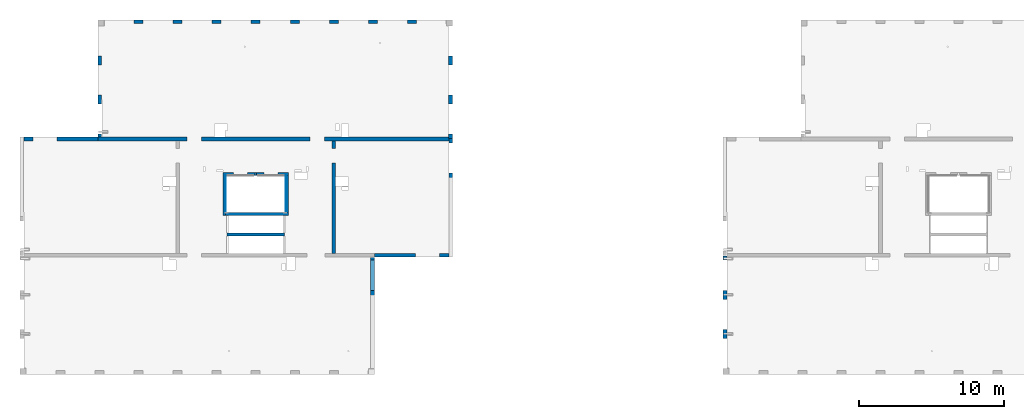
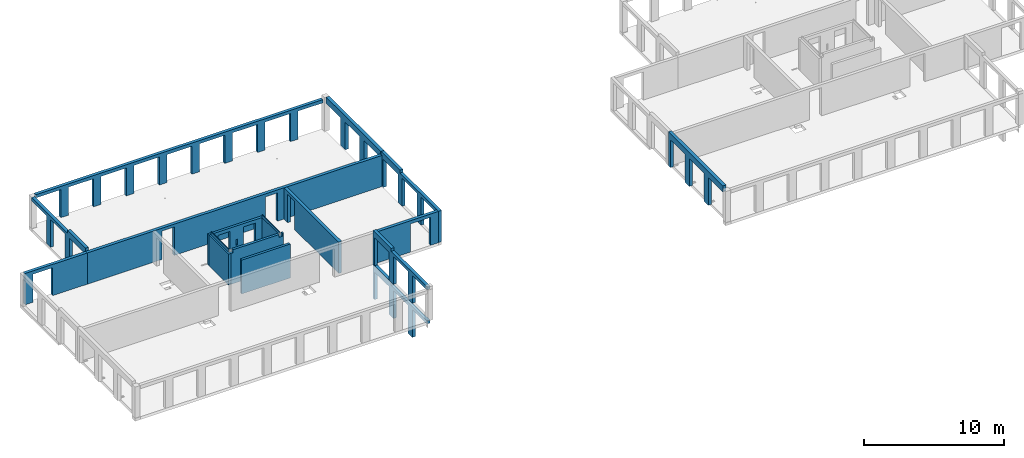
# One storey, part 3 of 9: 18 walls, 41 openings.
"""IFC2X3 building model written with IfcOpenShell, lengths in millimetres."""

from ifc_helpers import new_model, entity, si_unit, converted_unit, derived_unit, direction, frame, frame_2d, origin, origin_2d_with_axis, place, context, subcontext, project, spatial, rectangle, extrude, material, layer, layer_set, layer_usage, type_object, element, save


model = new_model("IFC2X3")

# Units and contexts
model_context = context("Model", 3, precision=0.01, world=origin(), true_north=direction((6.12303176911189e-17, 1.0)))
body_context = subcontext(model_context, "Body", "Model", "MODEL_VIEW")
ifc_project = project(units=[si_unit("LENGTHUNIT", "METRE", prefix="MILLI"), si_unit("AREAUNIT", "SQUARE_METRE"), si_unit("VOLUMEUNIT", "CUBIC_METRE"), converted_unit("PLANEANGLEUNIT", "DEGREE", entity("IfcRatioMeasure", 0.0174532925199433), si_unit("PLANEANGLEUNIT", "RADIAN"), dimensions=[0, 0, 0, 0, 0, 0, 0]), si_unit("MASSUNIT", "GRAM", prefix="KILO"), derived_unit("MASSDENSITYUNIT", [(si_unit("MASSUNIT", "GRAM", prefix="KILO"), 1), (si_unit("LENGTHUNIT", "METRE"), -3)]), si_unit("TIMEUNIT", "SECOND"), si_unit("FREQUENCYUNIT", "HERTZ"), si_unit("THERMODYNAMICTEMPERATUREUNIT", "DEGREE_CELSIUS"), derived_unit("THERMALTRANSMITTANCEUNIT", [(si_unit("MASSUNIT", "GRAM", prefix="KILO"), 1), (si_unit("THERMODYNAMICTEMPERATUREUNIT", "KELVIN"), -1), (si_unit("TIMEUNIT", "SECOND"), -3)]), derived_unit("VOLUMETRICFLOWRATEUNIT", [(si_unit("LENGTHUNIT", "METRE"), 3), (si_unit("TIMEUNIT", "SECOND"), -1)]), si_unit("ELECTRICCURRENTUNIT", "AMPERE"), si_unit("ELECTRICVOLTAGEUNIT", "VOLT"), si_unit("POWERUNIT", "WATT"), si_unit("FORCEUNIT", "NEWTON", prefix="KILO"), si_unit("ILLUMINANCEUNIT", "LUX"), si_unit("LUMINOUSFLUXUNIT", "LUMEN"), si_unit("LUMINOUSINTENSITYUNIT", "CANDELA"), derived_unit("USERDEFINED", [(si_unit("MASSUNIT", "GRAM", prefix="KILO"), -1), (si_unit("LENGTHUNIT", "METRE"), -2), (si_unit("TIMEUNIT", "SECOND"), 3), (si_unit("LUMINOUSFLUXUNIT", "LUMEN"), 1)]), derived_unit("LINEARVELOCITYUNIT", [(si_unit("LENGTHUNIT", "METRE"), 1), (si_unit("TIMEUNIT", "SECOND"), -1)]), si_unit("PRESSUREUNIT", "PASCAL"), derived_unit("USERDEFINED", [(si_unit("LENGTHUNIT", "METRE"), -2), (si_unit("MASSUNIT", "GRAM", prefix="KILO"), 1), (si_unit("TIMEUNIT", "SECOND"), -2)])], contexts=[model_context])

# Site, building, storey
site_placement = place(None, origin())
site = spatial("IfcSite", under=ifc_project, at=site_placement, Name="Default", CompositionType="ELEMENT")
building_placement = place(site_placement, origin())
building = spatial("IfcBuilding", under=site, at=building_placement, Name="niet gebruiken", CompositionType="ELEMENT")
storey_placement = place(building_placement, frame((0.0, 0.0, 33390.0)))
storey = spatial("IfcBuildingStorey", under=building, at=storey_placement, Name="11 elfde verdieping", CompositionType="ELEMENT", Elevation=33390.0)

# Wall, opening
ifc_material_1 = material(Name="NLRS_f2_beton ihwg")
ifc_layer_1 = layer(ifc_material_1, 250.0)
ifc_layer_set_1 = layer_set([ifc_layer_1], Name="Basic Wall:NLRS_22.21_WA_beton ihwg d=250_gen")
ifc_layer_usage_1 = layer_usage(ifc_layer_set_1, "AXIS2", "NEGATIVE", 125.0)
wall_type_1 = type_object("IfcWallType", Name="Basic Wall:NLRS_22.21_WA_beton ihwg d=250_gen", PredefinedType="STANDARD", material=ifc_layer_set_1)
wall_1_placement = place(storey_placement, frame((27170.0, 45031.0, -90.0)))
wall_1 = element("IfcWallStandardCase", 1, at=wall_1_placement, inside=storey, type_object=wall_type_1, material=ifc_layer_usage_1, Name="Basic Wall:NLRS_22.21_WA_beton ihwg d=250_gen", ObjectType="Basic Wall:NLRS_22.21_WA_beton ihwg d=250_gen", context=body_context, shape_type="SweptSolid", body=[
    extrude(rectangle(XDim=5130.0, YDim=249.999999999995, at=frame_2d((2565.0, 0.0), x_axis=(-1.0, 0.0))), origin(), (0.0, 0.0, 1.0), 2719.99999999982),
])
opening_1_placement = place(wall_1_placement, origin())
element("IfcOpeningElement", 2, at=opening_1_placement, cuts=wall_1, Name="Basic Wall:NLRS_22.21_WA_beton ihwg d=250_gen", ObjectType="Opening", context=body_context, shape_type="SweptSolid", body=[
    extrude(rectangle(XDim=2440.0, YDim=1640.0, at=origin_2d_with_axis()), frame((1460.0, -1649.0, 1220.0), z_axis=(0.0, 1.0, 0.0), x_axis=(0.0, 0.0, 1.0)), (0.0, 0.0, 1.0), 3048.0),
])

ifc_layer_usage_2 = layer_usage(ifc_layer_set_1, "AXIS2", "NEGATIVE", 125.0)
wall_2_placement = place(storey_placement, frame((48600.0, 44906.0, -90.0), z_axis=(0.0, 0.0, 1.0), x_axis=(0.0, -1.0, 0.0)))
wall_2 = element("IfcWallStandardCase", 3, at=wall_2_placement, inside=storey, type_object=wall_type_1, material=ifc_layer_usage_2, Name="Basic Wall:NLRS_22.21_WA_beton ihwg d=250_gen", ObjectType="Basic Wall:NLRS_22.21_WA_beton ihwg d=250_gen", context=body_context, shape_type="SweptSolid", body=[
    extrude(rectangle(XDim=7799.99999999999, YDim=249.999999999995, at=frame_2d((3900.0, 0.0), x_axis=(-1.0, 0.0))), origin(), (0.0, 0.0, 1.0), 2719.99999999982),
])
opening_2_placement = place(wall_2_placement, origin())
element("IfcOpeningElement", 4, at=opening_2_placement, cuts=wall_2, Name="Basic Wall:NLRS_22.21_WA_beton ihwg d=250_gen", ObjectType="Opening", context=body_context, shape_type="SweptSolid", body=[
    extrude(rectangle(XDim=2470.0, YDim=1006.0, at=frame_2d((4.43378667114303e-12, 0.0), x_axis=(1.0, 0.0))), frame((1027.0, -1649.0, 1235.0), z_axis=(0.0, 1.0, 0.0), x_axis=(0.0, 0.0, 1.0)), (0.0, 0.0, 1.0), 3048.0),
])

# Wall, openings
ifc_layer_usage_3 = layer_usage(ifc_layer_set_1, "AXIS2", "NEGATIVE", 125.0)
wall_3_placement = place(storey_placement, frame((32300.0, 45031.0, -90.0)))
wall_3 = element("IfcWallStandardCase", 5, at=wall_3_placement, inside=storey, type_object=wall_type_1, material=ifc_layer_usage_3, Name="Basic Wall:NLRS_22.21_WA_beton ihwg d=250_gen", ObjectType="Basic Wall:NLRS_22.21_WA_beton ihwg d=250_gen", context=body_context, shape_type="SweptSolid", body=[
    extrude(rectangle(XDim=24250.0, YDim=249.999999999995, at=frame_2d((12125.0, 0.0), x_axis=(-1.0, 0.0))), origin(), (0.0, 0.0, 1.0), 2719.99999999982),
])
opening_3_placement = place(wall_3_placement, origin())
element("IfcOpeningElement", 6, at=opening_3_placement, cuts=wall_3, Name="Basic Wall:NLRS_22.21_WA_beton ihwg d=250_gen", ObjectType="Opening", context=body_context, shape_type="SweptSolid", body=[
    extrude(rectangle(XDim=2470.0, YDim=1006.0, at=frame_2d((4.43378667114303e-12, 0.0), x_axis=(1.0, 0.0))), frame((15148.0, -1649.0, 1235.0), z_axis=(0.0, 1.0, 0.0), x_axis=(0.0, 0.0, 1.0)), (0.0, 0.0, 1.0), 3048.0),
])
opening_4_placement = place(wall_3_placement, origin())
element("IfcOpeningElement", 7, at=opening_4_placement, cuts=wall_3, Name="Basic Wall:NLRS_22.21_WA_beton ihwg d=250_gen", ObjectType="Opening", context=body_context, shape_type="SweptSolid", body=[
    extrude(rectangle(XDim=2470.0, YDim=1006.0, at=frame_2d((0.0, 2.1600499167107e-12), x_axis=(1.0, 0.0))), frame((6652.0, -1649.0, 1235.0), z_axis=(0.0, 1.0, 0.0), x_axis=(0.0, 0.0, 1.0)), (0.0, 0.0, 1.0), 3048.0),
])

# Wall, opening
ifc_layer_usage_4 = layer_usage(ifc_layer_set_1, "AXIS2", "NEGATIVE", 125.0)
wall_4_placement = place(storey_placement, frame((51400.0, 36981.0, -90.0)))
wall_4 = element("IfcWallStandardCase", 8, at=wall_4_placement, inside=storey, type_object=wall_type_1, material=ifc_layer_usage_4, Name="Basic Wall:NLRS_22.21_WA_beton ihwg d=250_gen", ObjectType="Basic Wall:NLRS_22.21_WA_beton ihwg d=250_gen", context=body_context, shape_type="SweptSolid", body=[
    extrude(rectangle(XDim=5150.0, YDim=250.000000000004, at=frame_2d((2575.0, 0.0), x_axis=(-1.0, 0.0))), origin(), (0.0, 0.0, 1.0), 2719.99999999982),
])
opening_5_placement = place(wall_4_placement, origin())
element("IfcOpeningElement", 9, at=opening_5_placement, cuts=wall_4, Name="Basic Wall:NLRS_22.21_WA_beton ihwg d=250_gen", ObjectType="Opening", context=body_context, shape_type="SweptSolid", body=[
    extrude(rectangle(XDim=2440.0, YDim=1640.0, at=frame_2d((-4.37694325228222e-12, 0.0), x_axis=(0.0, 1.0))), frame((3670.0, -1399.0, 1220.0), z_axis=(0.0, 1.0, 0.0), x_axis=(-1.0, 0.0, 0.0)), (0.0, 0.0, 1.0), 3048.0),
])

# Wall, openings
ifc_material_2 = material(Name="NLRS_f2_beton prefab")
ifc_layer_2 = layer(ifc_material_2, 250.0)
ifc_layer_set_2 = layer_set([ifc_layer_2], Name="Basic Wall:NLRS_21.21_WA_beton prefab d=250_gen")
ifc_layer_usage_5 = layer_usage(ifc_layer_set_2, "AXIS2", "NEGATIVE", 125.0)
wall_type_2 = type_object("IfcWallType", Name="Basic Wall:NLRS_21.21_WA_beton prefab d=250_gen", PredefinedType="STANDARD", material=ifc_layer_set_2)
wall_5_placement = place(storey_placement, frame((51275.0, 29166.0, -3040.0), z_axis=(0.0, 0.0, 1.0), x_axis=(0.0, 1.0, 0.0)))
wall_5 = element("IfcWallStandardCase", 10, at=wall_5_placement, inside=storey, type_object=wall_type_2, material=ifc_layer_usage_5, Name="Basic Wall:NLRS_21.21_WA_beton prefab d=250_gen", ObjectType="Basic Wall:NLRS_21.21_WA_beton prefab d=250_gen", context=body_context, shape_type="SweptSolid", body=[
    extrude(rectangle(XDim=7669.99999999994, YDim=249.999999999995, at=frame_2d((3834.99999999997, 0.0), x_axis=(-1.0, 0.0))), origin(), (0.0, 0.0, 1.0), 2949.99999999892),
])
opening_6_placement = place(wall_5_placement, origin())
element("IfcOpeningElement", 11, at=opening_6_placement, cuts=wall_5, Name="Basic Wall:NLRS_21.21_WA_beton prefab d=250_gen", ObjectType="Opening", context=body_context, shape_type="SweptSolid", body=[
    extrude(rectangle(XDim=2420.0, YDim=2080.0, at=frame_2d((-2.1600499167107e-12, 2.1600499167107e-12), x_axis=(0.0, 1.0))), frame((1040.0, -1399.0, 1210.0), z_axis=(0.0, 1.0, 0.0), x_axis=(-1.0, 0.0, 0.0)), (0.0, 0.0, 1.0), 3048.0),
])
opening_7_placement = place(wall_5_placement, origin())
element("IfcOpeningElement", 12, at=opening_7_placement, cuts=wall_5, Name="Basic Wall:NLRS_21.21_WA_beton prefab d=250_gen", ObjectType="Opening", context=body_context, shape_type="SweptSolid", body=[
    extrude(rectangle(XDim=2420.0, YDim=2080.0, at=frame_2d((2.1600499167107e-12, -2.1600499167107e-12), x_axis=(0.0, 1.0))), frame((3740.0, -1399.0, 1210.0), z_axis=(0.0, 1.0, 0.0), x_axis=(-1.0, 0.0, 0.0)), (0.0, 0.0, 1.0), 3048.0),
])
opening_8_placement = place(wall_5_placement, origin())
element("IfcOpeningElement", 13, at=opening_8_placement, cuts=wall_5, Name="Basic Wall:NLRS_21.21_WA_beton prefab d=250_gen", ObjectType="Opening", context=body_context, shape_type="SweptSolid", body=[
    extrude(rectangle(XDim=2420.0, YDim=2080.0, at=frame_2d((2.1600499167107e-12, -2.1600499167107e-12), x_axis=(0.0, 1.0))), frame((6440.0, -1399.0, 1210.0), z_axis=(0.0, 1.0, 0.0), x_axis=(-1.0, 0.0, 0.0)), (0.0, 0.0, 1.0), 3048.0),
])
opening_9_placement = place(wall_5_placement, origin())
element("IfcOpeningElement", 14, at=opening_9_placement, cuts=wall_5, Name="Basic Wall:NLRS_21.21_WA_beton prefab d=250_gen", ObjectType="Opening", context=body_context, shape_type="SweptSolid", body=[
    extrude(rectangle(XDim=249.999999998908, YDim=5090.00000000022, at=frame_2d((0.0, -2.16715534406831e-12), x_axis=(0.0, 1.0))), frame((2545.0, 125.0, 2825.0), z_axis=(0.0, -1.0, 0.0), x_axis=(-1.0, 0.0, 0.0)), (0.0, 0.0, 1.0), 250.0),
])

ifc_layer_usage_6 = layer_usage(ifc_layer_set_2, "AXIS2", "NEGATIVE", 125.0)
wall_6_placement = place(storey_placement, frame((32425.0, 52846.0, -70.0), z_axis=(0.0, 0.0, 1.0), x_axis=(0.0, -1.0, 0.0)))
wall_6 = element("IfcWallStandardCase", 15, at=wall_6_placement, inside=storey, type_object=wall_type_2, material=ifc_layer_usage_6, Name="Basic Wall:NLRS_21.21_WA_beton prefab d=250_gen", ObjectType="Basic Wall:NLRS_21.21_WA_beton prefab d=250_gen", context=body_context, shape_type="SweptSolid", body=[
    extrude(rectangle(XDim=7670.00000000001, YDim=250.000000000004, at=frame_2d((3835.0, 0.0), x_axis=(-1.0, 0.0))), origin(), (0.0, 0.0, 1.0), 2949.99999999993),
])
opening_10_placement = place(wall_6_placement, origin())
element("IfcOpeningElement", 16, at=opening_10_placement, cuts=wall_6, Name="Basic Wall:NLRS_21.21_WA_beton prefab d=250_gen", ObjectType="Opening", context=body_context, shape_type="SweptSolid", body=[
    extrude(rectangle(XDim=2420.0, YDim=2080.0, at=frame_2d((0.0, -2.1600499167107e-12), x_axis=(0.0, 1.0))), frame((1040.0, -1399.0, 1210.0), z_axis=(0.0, 1.0, 0.0), x_axis=(-1.0, 0.0, 0.0)), (0.0, 0.0, 1.0), 3048.0),
])
opening_11_placement = place(wall_6_placement, origin())
element("IfcOpeningElement", 17, at=opening_11_placement, cuts=wall_6, Name="Basic Wall:NLRS_21.21_WA_beton prefab d=250_gen", ObjectType="Opening", context=body_context, shape_type="SweptSolid", body=[
    extrude(rectangle(XDim=2420.0, YDim=2080.0, at=frame_2d((0.0, 2.1600499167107e-12), x_axis=(0.0, 1.0))), frame((3740.0, -1399.0, 1210.0), z_axis=(0.0, 1.0, 0.0), x_axis=(-1.0, 0.0, 0.0)), (0.0, 0.0, 1.0), 3048.0),
])
opening_12_placement = place(wall_6_placement, origin())
element("IfcOpeningElement", 18, at=opening_12_placement, cuts=wall_6, Name="Basic Wall:NLRS_21.21_WA_beton prefab d=250_gen", ObjectType="Opening", context=body_context, shape_type="SweptSolid", body=[
    extrude(rectangle(XDim=2420.0, YDim=2080.0, at=frame_2d((0.0, -2.1600499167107e-12), x_axis=(0.0, 1.0))), frame((6440.0, -1399.0, 1210.0), z_axis=(0.0, 1.0, 0.0), x_axis=(-1.0, 0.0, 0.0)), (0.0, 0.0, 1.0), 3048.0),
])
opening_13_placement = place(wall_6_placement, origin())
element("IfcOpeningElement", 19, at=opening_13_placement, cuts=wall_6, Name="Basic Wall:NLRS_21.21_WA_beton prefab d=250_gen", ObjectType="Opening", context=body_context, shape_type="SweptSolid", body=[
    extrude(rectangle(XDim=250.000000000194, YDim=5089.99999999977, at=frame_2d((4.32009983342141e-12, 0.0), x_axis=(0.0, 1.0))), frame((2545.0, 125.0, 2825.0), z_axis=(0.0, -1.0, 0.0), x_axis=(-1.0, 0.0, 0.0)), (0.0, 0.0, 1.0), 250.0),
])

ifc_layer_usage_7 = layer_usage(ifc_layer_set_2, "AXIS2", "NEGATIVE", 125.0)
wall_7_placement = place(storey_placement, frame((56675.0, 45046.0, -70.0), z_axis=(0.0, 0.0, 1.0), x_axis=(0.0, -1.0, 0.0)))
wall_7 = element("IfcWallStandardCase", 20, at=wall_7_placement, inside=storey, type_object=wall_type_2, material=ifc_layer_usage_7, Name="Basic Wall:NLRS_21.21_WA_beton prefab d=250_gen", ObjectType="Basic Wall:NLRS_21.21_WA_beton prefab d=250_gen", context=body_context, shape_type="SweptSolid", body=[
    extrude(rectangle(XDim=8189.99999999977, YDim=249.999999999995, at=frame_2d((4094.99999999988, 0.0), x_axis=(-1.0, 0.0))), origin(), (0.0, 0.0, 1.0), 2949.99999999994),
])
opening_14_placement = place(wall_7_placement, origin())
element("IfcOpeningElement", 21, at=opening_14_placement, cuts=wall_7, Name="Basic Wall:NLRS_21.21_WA_beton prefab d=250_gen", ObjectType="Opening", context=body_context, shape_type="SweptSolid", body=[
    extrude(rectangle(XDim=2420.0, YDim=2080.0, at=frame_2d((0.0, -2.1600499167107e-12), x_axis=(0.0, 1.0))), frame((1340.0, -1399.0, 1210.0), z_axis=(0.0, 1.0, 0.0), x_axis=(-1.0, 0.0, 0.0)), (0.0, 0.0, 1.0), 3048.0),
])
opening_15_placement = place(wall_7_placement, origin())
element("IfcOpeningElement", 22, at=opening_15_placement, cuts=wall_7, Name="Basic Wall:NLRS_21.21_WA_beton prefab d=250_gen", ObjectType="Opening", context=body_context, shape_type="SweptSolid", body=[
    extrude(rectangle(XDim=2420.0, YDim=2080.0, at=frame_2d((0.0, -2.1600499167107e-12), x_axis=(0.0, 1.0))), frame((4040.0, -1399.0, 1210.0), z_axis=(0.0, 1.0, 0.0), x_axis=(-1.0, 0.0, 0.0)), (0.0, 0.0, 1.0), 3048.0),
])
opening_16_placement = place(wall_7_placement, origin())
element("IfcOpeningElement", 23, at=opening_16_placement, cuts=wall_7, Name="Basic Wall:NLRS_21.21_WA_beton prefab d=250_gen", ObjectType="Opening", context=body_context, shape_type="SweptSolid", body=[
    extrude(rectangle(XDim=2420.0, YDim=2080.0, at=frame_2d((0.0, -2.1600499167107e-12), x_axis=(0.0, 1.0))), frame((6740.0, -1399.0, 1210.0), z_axis=(0.0, 1.0, 0.0), x_axis=(-1.0, 0.0, 0.0)), (0.0, 0.0, 1.0), 3048.0),
])
opening_17_placement = place(wall_7_placement, origin())
element("IfcOpeningElement", 24, at=opening_17_placement, cuts=wall_7, Name="Basic Wall:NLRS_21.21_WA_beton prefab d=250_gen", ObjectType="Opening", context=body_context, shape_type="SweptSolid", body=[
    extrude(rectangle(XDim=249.99999999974, YDim=5500.0000000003, at=frame_2d((2.16715534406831e-12, -4.32009983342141e-12), x_axis=(1.0, 0.0))), frame((5440.0, 125.0, 2825.0), z_axis=(0.0, -1.0, 0.0), x_axis=(0.0, 0.0, 1.0)), (0.0, 0.0, 1.0), 250.0),
])

ifc_layer_usage_8 = layer_usage(ifc_layer_set_2, "AXIS2", "NEGATIVE", 125.0)
wall_8_placement = place(storey_placement, frame((51275.0, 29166.0, -70.0), z_axis=(0.0, 0.0, 1.0), x_axis=(0.0, 1.0, 0.0)))
wall_8 = element("IfcWallStandardCase", 25, at=wall_8_placement, inside=storey, type_object=wall_type_2, material=ifc_layer_usage_8, Name="Basic Wall:NLRS_21.21_WA_beton prefab d=250_gen", ObjectType="Basic Wall:NLRS_21.21_WA_beton prefab d=250_gen", context=body_context, shape_type="SweptSolid", body=[
    extrude(rectangle(XDim=7669.99999999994, YDim=249.999999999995, at=frame_2d((3834.99999999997, 0.0), x_axis=(-1.0, 0.0))), origin(), (0.0, 0.0, 1.0), 2949.99999999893),
])
opening_18_placement = place(wall_8_placement, origin())
element("IfcOpeningElement", 26, at=opening_18_placement, cuts=wall_8, Name="Basic Wall:NLRS_21.21_WA_beton prefab d=250_gen", ObjectType="Opening", context=body_context, shape_type="SweptSolid", body=[
    extrude(rectangle(XDim=2420.0, YDim=2080.0, at=frame_2d((-2.1600499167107e-12, -2.1600499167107e-12), x_axis=(0.0, 1.0))), frame((1040.0, -1399.0, 1210.0), z_axis=(0.0, 1.0, 0.0), x_axis=(-1.0, 0.0, 0.0)), (0.0, 0.0, 1.0), 3048.0),
])
opening_19_placement = place(wall_8_placement, origin())
element("IfcOpeningElement", 27, at=opening_19_placement, cuts=wall_8, Name="Basic Wall:NLRS_21.21_WA_beton prefab d=250_gen", ObjectType="Opening", context=body_context, shape_type="SweptSolid", body=[
    extrude(rectangle(XDim=2420.0, YDim=2080.0, at=frame_2d((2.1600499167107e-12, -2.1600499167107e-12), x_axis=(0.0, 1.0))), frame((6440.0, -1399.0, 1210.0), z_axis=(0.0, 1.0, 0.0), x_axis=(-1.0, 0.0, 0.0)), (0.0, 0.0, 1.0), 3048.0),
])
opening_20_placement = place(wall_8_placement, origin())
element("IfcOpeningElement", 28, at=opening_20_placement, cuts=wall_8, Name="Basic Wall:NLRS_21.21_WA_beton prefab d=250_gen", ObjectType="Opening", context=body_context, shape_type="SweptSolid", body=[
    extrude(rectangle(XDim=2420.0, YDim=2080.0, at=frame_2d((2.1600499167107e-12, -2.1600499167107e-12), x_axis=(0.0, 1.0))), frame((3740.0, -1399.0, 1210.0), z_axis=(0.0, 1.0, 0.0), x_axis=(-1.0, 0.0, 0.0)), (0.0, 0.0, 1.0), 3048.0),
])
opening_21_placement = place(wall_8_placement, origin())
element("IfcOpeningElement", 29, at=opening_21_placement, cuts=wall_8, Name="Basic Wall:NLRS_21.21_WA_beton prefab d=250_gen", ObjectType="Opening", context=body_context, shape_type="SweptSolid", body=[
    extrude(rectangle(XDim=249.999999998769, YDim=5090.00000000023, at=frame_2d((0.0, -2.1600499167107e-12), x_axis=(0.0, 1.0))), frame((2545.0, 125.0, 2825.0), z_axis=(0.0, -1.0, 0.0), x_axis=(-1.0, 0.0, 0.0)), (0.0, 0.0, 1.0), 250.0),
])

# Wall
ifc_layer_3 = layer(ifc_material_2, 200.0)
ifc_layer_set_3 = layer_set([ifc_layer_3], Name="Basic Wall:NLRS_21.21_WA_beton prefab d=200_gen")
ifc_layer_usage_9 = layer_usage(ifc_layer_set_3, "AXIS2", "NEGATIVE", 100.0)
wall_type_3 = type_object("IfcWallType", Name="Basic Wall:NLRS_21.21_WA_beton prefab d=200_gen", PredefinedType="STANDARD", material=ifc_layer_set_3)
wall_9_placement = place(storey_placement, frame((41200.0, 38426.0, -70.0)))
element("IfcWallStandardCase", 30, at=wall_9_placement, inside=storey, type_object=wall_type_3, material=ifc_layer_usage_9, Name="Basic Wall:NLRS_21.21_WA_beton prefab d=200_gen", ObjectType="Basic Wall:NLRS_21.21_WA_beton prefab d=200_gen", context=body_context, shape_type="SweptSolid", body=[
    extrude(rectangle(XDim=3999.99999999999, YDim=199.999999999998, at=frame_2d((2000.0, 0.0), x_axis=(-1.0, 0.0))), origin(), (0.0, 0.0, 1.0), 2950.00000000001),
])

# Wall, openings
ifc_layer_4 = layer(ifc_material_2, 200.0)
ifc_layer_set_4 = layer_set([ifc_layer_4], Name="Basic Wall:NLRS_22.21_WA_beton prefab d=200_gen")
ifc_layer_usage_10 = layer_usage(ifc_layer_set_4, "AXIS2", "NEGATIVE", 100.0)
wall_type_4 = type_object("IfcWallType", Name="Basic Wall:NLRS_22.21_WA_beton prefab d=200_gen", PredefinedType="STANDARD", material=ifc_layer_set_4)
wall_10_placement = place(storey_placement, frame((40925.0, 42596.0, -70.0)))
wall_10 = element("IfcWallStandardCase", 31, at=wall_10_placement, inside=storey, type_object=wall_type_4, material=ifc_layer_usage_10, Name="Basic Wall:NLRS_22.21_WA_beton prefab d=200_gen", ObjectType="Basic Wall:NLRS_22.21_WA_beton prefab d=200_gen", context=body_context, shape_type="SweptSolid", body=[
    extrude(rectangle(XDim=4549.99999999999, YDim=200.000000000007, at=frame_2d((2274.99999999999, 7.8159700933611e-13), x_axis=(-1.0, 0.0))), origin(), (0.0, 0.0, 1.0), 2700.00000000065),
])
opening_22_placement = place(wall_10_placement, origin())
element("IfcOpeningElement", 32, at=opening_22_placement, cuts=wall_10, Name="Basic Wall:NLRS_22.21_WA_beton prefab d=200_gen", ObjectType="Opening", context=body_context, shape_type="SweptSolid", body=[
    extrude(rectangle(XDim=2430.0, YDim=980.000000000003, at=origin_2d_with_axis()), frame((1219.99984910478, -1624.0, 1195.0), z_axis=(0.0, 1.0, 0.0), x_axis=(0.0, 0.0, 1.0)), (0.0, 0.0, 1.0), 3048.0),
])
opening_23_placement = place(wall_10_placement, origin())
element("IfcOpeningElement", 33, at=opening_23_placement, cuts=wall_10, Name="Basic Wall:NLRS_22.21_WA_beton prefab d=200_gen", ObjectType="Opening", context=body_context, shape_type="SweptSolid", body=[
    extrude(rectangle(XDim=2430.0, YDim=980.000000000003, at=origin_2d_with_axis()), frame((3329.99984910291, -1624.0, 1195.0), z_axis=(0.0, 1.0, 0.0), x_axis=(0.0, 0.0, 1.0)), (0.0, 0.0, 1.0), 3048.0),
])
opening_24_placement = place(wall_10_placement, origin())
element("IfcOpeningElement", 34, at=opening_24_placement, cuts=wall_10, Name="Basic Wall:NLRS_22.21_WA_beton prefab d=200_gen", ObjectType="Opening", context=body_context, shape_type="SweptSolid", body=[
    extrude(rectangle(XDim=504.999999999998, YDim=135.000000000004, at=frame_2d((-2.1600499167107e-12, 0.0), x_axis=(1.0, 0.0))), frame((2275.0, -1624.0, 1272.50000000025), z_axis=(0.0, 1.0, 0.0), x_axis=(0.0, 0.0, 1.0)), (0.0, 0.0, 1.0), 3048.0),
])

# Wall
ifc_layer_usage_11 = layer_usage(ifc_layer_set_4, "AXIS2", "NEGATIVE", 100.0)
wall_11_placement = place(storey_placement, frame((41025.0, 42496.0, -70.0), z_axis=(0.0, 0.0, 1.0), x_axis=(0.0, -1.0, 0.0)))
element("IfcWallStandardCase", 35, at=wall_11_placement, inside=storey, type_object=wall_type_4, material=ifc_layer_usage_11, Name="Basic Wall:NLRS_22.21_WA_beton prefab d=200_gen", ObjectType="Basic Wall:NLRS_22.21_WA_beton prefab d=200_gen", context=body_context, shape_type="SweptSolid", body=[
    extrude(rectangle(XDim=2749.99999999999, YDim=200.000000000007, at=frame_2d((1375.0, 0.0), x_axis=(-1.0, 0.0))), origin(), (0.0, 0.0, 1.0), 2699.99999999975),
])

# Wall, openings
ifc_layer_usage_12 = layer_usage(ifc_layer_set_4, "AXIS2", "NEGATIVE", 100.0)
wall_12_placement = place(storey_placement, frame((45475.0, 39846.0, -70.0), z_axis=(0.0, 0.0, 1.0), x_axis=(-1.0, 0.0, 0.0)))
wall_12 = element("IfcWallStandardCase", 36, at=wall_12_placement, inside=storey, type_object=wall_type_4, material=ifc_layer_usage_12, Name="Basic Wall:NLRS_22.21_WA_beton prefab d=200_gen", ObjectType="Basic Wall:NLRS_22.21_WA_beton prefab d=200_gen", context=body_context, shape_type="SweptSolid", body=[
    extrude(rectangle(XDim=4349.99999999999, YDim=200.000000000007, at=frame_2d((2174.99999999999, 0.0), x_axis=(-1.0, 0.0))), origin(), (0.0, 0.0, 1.0), 2949.99999999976),
])
opening_25_placement = place(wall_12_placement, origin())
element("IfcOpeningElement", 37, at=opening_25_placement, cuts=wall_12, Name="Basic Wall:NLRS_22.21_WA_beton prefab d=200_gen", ObjectType="Opening", context=body_context, shape_type="SweptSolid", body=[
    extrude(rectangle(XDim=249.999999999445, YDim=274.9999671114, at=frame_2d((-2.16715534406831e-12, -4.33431068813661e-12), x_axis=(1.0, 0.0))), frame((4312.5000164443, 100.0, 2825.0), z_axis=(0.0, -1.0, 0.0), x_axis=(0.0, 0.0, 1.0)), (0.0, 0.0, 1.0), 200.0),
])
opening_26_placement = place(wall_12_placement, origin())
element("IfcOpeningElement", 38, at=opening_26_placement, cuts=wall_12, Name="Basic Wall:NLRS_22.21_WA_beton prefab d=200_gen", ObjectType="Opening", context=body_context, shape_type="SweptSolid", body=[
    extrude(rectangle(XDim=249.999999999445, YDim=274.999967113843, at=frame_2d((-4.32009983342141e-12, 2.16715534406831e-12), x_axis=(0.0, 1.0))), frame((237.499983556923, 100.0, 2825.0), z_axis=(0.0, -1.0, 0.0), x_axis=(-1.0, 0.0, 0.0)), (0.0, 0.0, 1.0), 200.0),
])

# Wall
ifc_layer_usage_13 = layer_usage(ifc_layer_set_4, "AXIS2", "NEGATIVE", 100.0)
wall_13_placement = place(storey_placement, frame((45375.0, 39946.0, -70.0), z_axis=(0.0, 0.0, 1.0), x_axis=(0.0, 1.0, 0.0)))
element("IfcWallStandardCase", 39, at=wall_13_placement, inside=storey, type_object=wall_type_4, material=ifc_layer_usage_13, Name="Basic Wall:NLRS_22.21_WA_beton prefab d=200_gen", ObjectType="Basic Wall:NLRS_22.21_WA_beton prefab d=200_gen", context=body_context, shape_type="SweptSolid", body=[
    extrude(rectangle(XDim=2549.99999999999, YDim=200.000000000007, at=frame_2d((1275.0, 0.0), x_axis=(-1.0, 0.0))), origin(), (0.0, 0.0, 1.0), 2699.99999999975),
])

# Wall, openings
ifc_layer_5 = layer(ifc_material_1, 250.0)
ifc_layer_set_5 = layer_set([ifc_layer_5], Name="Basic Wall:NLRS_21.21_WA_beton ihwg d=250_gen")
ifc_layer_usage_14 = layer_usage(ifc_layer_set_5, "AXIS2", "NEGATIVE", 125.0)
wall_type_5 = type_object("IfcWallType", Name="Basic Wall:NLRS_21.21_WA_beton ihwg d=250_gen", PredefinedType="STANDARD", material=ifc_layer_set_5)
wall_14_placement = place(storey_placement, frame((56370.0, 53131.0, -90.0), z_axis=(0.0, 0.0, 1.0), x_axis=(-1.0, 0.0, 0.0)))
wall_14 = element("IfcWallStandardCase", 40, at=wall_14_placement, inside=storey, type_object=wall_type_5, material=ifc_layer_usage_14, Name="Basic Wall:NLRS_21.21_WA_beton ihwg d=250_gen", ObjectType="Basic Wall:NLRS_21.21_WA_beton ihwg d=250_gen", context=body_context, shape_type="SweptSolid", body=[
    extrude(rectangle(XDim=23640.0000000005, YDim=249.999999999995, at=frame_2d((11820.0000000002, 5.82645043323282e-13), x_axis=(-1.0, 0.0))), origin(), (0.0, 0.0, 1.0), 2720.0),
])
opening_27_placement = place(wall_14_placement, origin())
element("IfcOpeningElement", 41, at=opening_27_placement, cuts=wall_14, Name="Basic Wall:NLRS_21.21_WA_beton ihwg d=250_gen", ObjectType="Opening", context=body_context, shape_type="SweptSolid", body=[
    extrude(rectangle(XDim=2440.0, YDim=2080.0, at=frame_2d((-2.1600499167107e-12, -2.1600499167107e-12), x_axis=(0.0, 1.0))), frame((22620.0, -1399.0, 1220.0), z_axis=(0.0, 1.0, 0.0), x_axis=(-1.0, 0.0, 0.0)), (0.0, 0.0, 1.0), 3048.0),
])
opening_28_placement = place(wall_14_placement, origin())
element("IfcOpeningElement", 42, at=opening_28_placement, cuts=wall_14, Name="Basic Wall:NLRS_21.21_WA_beton ihwg d=250_gen", ObjectType="Opening", context=body_context, shape_type="SweptSolid", body=[
    extrude(rectangle(XDim=2440.0, YDim=2080.0, at=frame_2d((2.1600499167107e-12, 0.0), x_axis=(0.0, 1.0))), frame((19920.0, -1399.0, 1220.0), z_axis=(0.0, 1.0, 0.0), x_axis=(-1.0, 0.0, 0.0)), (0.0, 0.0, 1.0), 3048.0),
])
opening_29_placement = place(wall_14_placement, origin())
element("IfcOpeningElement", 43, at=opening_29_placement, cuts=wall_14, Name="Basic Wall:NLRS_21.21_WA_beton ihwg d=250_gen", ObjectType="Opening", context=body_context, shape_type="SweptSolid", body=[
    extrude(rectangle(XDim=2440.0, YDim=2079.99999999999, at=frame_2d((2.1600499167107e-12, -2.1600499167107e-12), x_axis=(0.0, 1.0))), frame((17220.0, -1399.0, 1220.0), z_axis=(0.0, 1.0, 0.0), x_axis=(-1.0, 0.0, 0.0)), (0.0, 0.0, 1.0), 3048.0),
])
opening_30_placement = place(wall_14_placement, origin())
element("IfcOpeningElement", 44, at=opening_30_placement, cuts=wall_14, Name="Basic Wall:NLRS_21.21_WA_beton ihwg d=250_gen", ObjectType="Opening", context=body_context, shape_type="SweptSolid", body=[
    extrude(rectangle(XDim=2440.0, YDim=2080.0, at=frame_2d((0.0, 0.0), x_axis=(0.0, 1.0))), frame((14520.0, -1399.0, 1220.0), z_axis=(0.0, 1.0, 0.0), x_axis=(-1.0, 0.0, 0.0)), (0.0, 0.0, 1.0), 3048.0),
])
opening_31_placement = place(wall_14_placement, origin())
element("IfcOpeningElement", 45, at=opening_31_placement, cuts=wall_14, Name="Basic Wall:NLRS_21.21_WA_beton ihwg d=250_gen", ObjectType="Opening", context=body_context, shape_type="SweptSolid", body=[
    extrude(rectangle(XDim=2440.0, YDim=2080.0, at=frame_2d((0.0, -2.1600499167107e-12), x_axis=(0.0, 1.0))), frame((11820.0, -1399.0, 1220.0), z_axis=(0.0, 1.0, 0.0), x_axis=(-1.0, 0.0, 0.0)), (0.0, 0.0, 1.0), 3048.0),
])
opening_32_placement = place(wall_14_placement, origin())
element("IfcOpeningElement", 46, at=opening_32_placement, cuts=wall_14, Name="Basic Wall:NLRS_21.21_WA_beton ihwg d=250_gen", ObjectType="Opening", context=body_context, shape_type="SweptSolid", body=[
    extrude(rectangle(XDim=2440.0, YDim=2080.0, at=frame_2d((0.0, 0.0), x_axis=(0.0, 1.0))), frame((9120.0, -1399.0, 1220.0), z_axis=(0.0, 1.0, 0.0), x_axis=(-1.0, 0.0, 0.0)), (0.0, 0.0, 1.0), 3048.0),
])
opening_33_placement = place(wall_14_placement, origin())
element("IfcOpeningElement", 47, at=opening_33_placement, cuts=wall_14, Name="Basic Wall:NLRS_21.21_WA_beton ihwg d=250_gen", ObjectType="Opening", context=body_context, shape_type="SweptSolid", body=[
    extrude(rectangle(XDim=2440.0, YDim=2080.0, at=frame_2d((0.0, 2.1600499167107e-12), x_axis=(0.0, 1.0))), frame((6420.0, -1399.0, 1220.0), z_axis=(0.0, 1.0, 0.0), x_axis=(-1.0, 0.0, 0.0)), (0.0, 0.0, 1.0), 3048.0),
])
opening_34_placement = place(wall_14_placement, origin())
element("IfcOpeningElement", 48, at=opening_34_placement, cuts=wall_14, Name="Basic Wall:NLRS_21.21_WA_beton ihwg d=250_gen", ObjectType="Opening", context=body_context, shape_type="SweptSolid", body=[
    extrude(rectangle(XDim=2440.0, YDim=2080.0, at=frame_2d((0.0, 0.0), x_axis=(0.0, 1.0))), frame((3720.0, -1399.0, 1220.0), z_axis=(0.0, 1.0, 0.0), x_axis=(-1.0, 0.0, 0.0)), (0.0, 0.0, 1.0), 3048.0),
])
opening_35_placement = place(wall_14_placement, origin())
element("IfcOpeningElement", 49, at=opening_35_placement, cuts=wall_14, Name="Basic Wall:NLRS_21.21_WA_beton ihwg d=250_gen", ObjectType="Opening", context=body_context, shape_type="SweptSolid", body=[
    extrude(rectangle(XDim=2440.0, YDim=2080.0, at=frame_2d((8.64019966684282e-12, -2.1600499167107e-12), x_axis=(0.0, 1.0))), frame((1020.0, -1399.0, 1220.0), z_axis=(0.0, 1.0, 0.0), x_axis=(-1.0, 0.0, 0.0)), (0.0, 0.0, 1.0), 3048.0),
])

ifc_layer_6 = layer(ifc_material_2, 270.0)
ifc_layer_set_6 = layer_set([ifc_layer_6], Name="Basic Wall:NLRS_21.21_WA_beton prefab d=270_gen")
ifc_layer_usage_15 = layer_usage(ifc_layer_set_6, "AXIS2", "NEGATIVE", 135.0)
wall_type_6 = type_object("IfcWallType", Name="Basic Wall:NLRS_21.21_WA_beton prefab d=270_gen", PredefinedType="STANDARD", material=ifc_layer_set_6)
wall_15_placement = place(storey_placement, frame((75635.0, 36946.0, -70.0), z_axis=(0.0, 0.0, 1.0), x_axis=(0.0, -1.0, 0.0)))
wall_15 = element("IfcWallStandardCase", 50, at=wall_15_placement, inside=storey, type_object=wall_type_6, material=ifc_layer_usage_15, Name="Basic Wall:NLRS_21.21_WA_beton prefab d=270_gen", ObjectType="Basic Wall:NLRS_21.21_WA_beton prefab d=270_gen", context=body_context, shape_type="SweptSolid", body=[
    extrude(rectangle(XDim=7779.99999999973, YDim=270.000000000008, at=frame_2d((3889.99999999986, 0.0), x_axis=(-1.0, 0.0))), origin(), (0.0, 0.0, 1.0), 2949.99999999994),
])
opening_36_placement = place(wall_15_placement, origin())
element("IfcOpeningElement", 51, at=opening_36_placement, cuts=wall_15, Name="Basic Wall:NLRS_21.21_WA_beton prefab d=270_gen", ObjectType="Opening", context=body_context, shape_type="SweptSolid", body=[
    extrude(rectangle(XDim=2420.0, YDim=2080.0, at=frame_2d((-2.1600499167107e-12, 2.1600499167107e-12), x_axis=(0.0, 1.0))), frame((1340.0, -1389.0, 1210.0), z_axis=(0.0, 1.0, 0.0), x_axis=(-1.0, 0.0, 0.0)), (0.0, 0.0, 1.0), 3048.0),
])
opening_37_placement = place(wall_15_placement, origin())
element("IfcOpeningElement", 52, at=opening_37_placement, cuts=wall_15, Name="Basic Wall:NLRS_21.21_WA_beton prefab d=270_gen", ObjectType="Opening", context=body_context, shape_type="SweptSolid", body=[
    extrude(rectangle(XDim=2420.0, YDim=2080.0, at=frame_2d((2.1600499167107e-12, 2.1600499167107e-12), x_axis=(0.0, 1.0))), frame((4040.0, -1389.0, 1210.0), z_axis=(0.0, 1.0, 0.0), x_axis=(-1.0, 0.0, 0.0)), (0.0, 0.0, 1.0), 3048.0),
])
opening_38_placement = place(wall_15_placement, origin())
element("IfcOpeningElement", 53, at=opening_38_placement, cuts=wall_15, Name="Basic Wall:NLRS_21.21_WA_beton prefab d=270_gen", ObjectType="Opening", context=body_context, shape_type="SweptSolid", body=[
    extrude(rectangle(XDim=2420.0, YDim=2080.0, at=frame_2d((2.1600499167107e-12, -2.1600499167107e-12), x_axis=(0.0, 1.0))), frame((6740.0, -1389.0, 1210.0), z_axis=(0.0, 1.0, 0.0), x_axis=(-1.0, 0.0, 0.0)), (0.0, 0.0, 1.0), 3048.0),
])

ifc_layer_usage_16 = layer_usage(ifc_layer_set_6, "AXIS2", "NEGATIVE", 135.0)
wall_16_placement = place(storey_placement, frame((56665.0, 52846.0, -70.0), z_axis=(0.0, 0.0, 1.0), x_axis=(0.0, -1.0, 0.0)))
wall_16 = element("IfcWallStandardCase", 54, at=wall_16_placement, inside=storey, type_object=wall_type_6, material=ifc_layer_usage_16, Name="Basic Wall:NLRS_21.21_WA_beton prefab d=270_gen", ObjectType="Basic Wall:NLRS_21.21_WA_beton prefab d=270_gen", context=body_context, shape_type="SweptSolid", body=[
    extrude(rectangle(XDim=7780.00000000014, YDim=270.000000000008, at=frame_2d((3890.00000000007, 0.0), x_axis=(-1.0, 0.0))), origin(), (0.0, 0.0, 1.0), 2949.99999999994),
])
opening_39_placement = place(wall_16_placement, origin())
element("IfcOpeningElement", 55, at=opening_39_placement, cuts=wall_16, Name="Basic Wall:NLRS_21.21_WA_beton prefab d=270_gen", ObjectType="Opening", context=body_context, shape_type="SweptSolid", body=[
    extrude(rectangle(XDim=2420.0, YDim=2080.0, at=frame_2d((8.64019966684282e-12, -2.1600499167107e-12), x_axis=(0.0, 1.0))), frame((1040.0, -1389.0, 1210.0), z_axis=(0.0, 1.0, 0.0), x_axis=(-1.0, 0.0, 0.0)), (0.0, 0.0, 1.0), 3048.0),
])
opening_40_placement = place(wall_16_placement, origin())
element("IfcOpeningElement", 56, at=opening_40_placement, cuts=wall_16, Name="Basic Wall:NLRS_21.21_WA_beton prefab d=270_gen", ObjectType="Opening", context=body_context, shape_type="SweptSolid", body=[
    extrude(rectangle(XDim=2420.0, YDim=2080.0, at=frame_2d((0.0, -2.1600499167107e-12), x_axis=(0.0, 1.0))), frame((3740.0, -1389.0, 1210.0), z_axis=(0.0, 1.0, 0.0), x_axis=(-1.0, 0.0, 0.0)), (0.0, 0.0, 1.0), 3048.0),
])
opening_41_placement = place(wall_16_placement, origin())
element("IfcOpeningElement", 57, at=opening_41_placement, cuts=wall_16, Name="Basic Wall:NLRS_21.21_WA_beton prefab d=270_gen", ObjectType="Opening", context=body_context, shape_type="SweptSolid", body=[
    extrude(rectangle(XDim=2420.0, YDim=2080.0, at=frame_2d((0.0, -2.1600499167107e-12), x_axis=(0.0, 1.0))), frame((6440.0, -1389.0, 1210.0), z_axis=(0.0, 1.0, 0.0), x_axis=(-1.0, 0.0, 0.0)), (0.0, 0.0, 1.0), 3048.0),
])

# Walls
ifc_layer_7 = layer(ifc_material_2, 60.0)
ifc_layer_set_7 = layer_set([ifc_layer_7], Name="Basic Wall:NLRS_22.21_WA_beton prefab d=60_gen")
ifc_layer_usage_17 = layer_usage(ifc_layer_set_7, "AXIS2", "NEGATIVE", 30.0)
wall_type_7 = type_object("IfcWallType", Name="Basic Wall:NLRS_22.21_WA_beton prefab d=60_gen", PredefinedType="STANDARD", material=ifc_layer_set_7)
wall_17_placement = place(storey_placement, frame((41095.0, 42476.0, 2630.0), z_axis=(0.0, 0.0, 1.0), x_axis=(0.0, -1.0, 0.0)))
element("IfcWallStandardCase", 58, at=wall_17_placement, inside=storey, type_object=wall_type_7, material=ifc_layer_usage_17, Name="Basic Wall:NLRS_22.21_WA_beton prefab d=60_gen", ObjectType="Basic Wall:NLRS_22.21_WA_beton prefab d=60_gen", context=body_context, shape_type="SweptSolid", body=[
    extrude(rectangle(XDim=2509.99999999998, YDim=60.0000000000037, at=frame_2d((1254.99999999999, 0.0), x_axis=(-1.0, 0.0))), origin(), (0.0, 0.0, 1.0), 250.000000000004),
])
ifc_layer_usage_18 = layer_usage(ifc_layer_set_7, "AXIS2", "POSITIVE", -30.0)
wall_18_placement = place(storey_placement, frame((45305.0, 42476.0, 2630.0), z_axis=(0.0, 0.0, 1.0), x_axis=(0.0, -1.0, 0.0)))
element("IfcWallStandardCase", 59, at=wall_18_placement, inside=storey, type_object=wall_type_7, material=ifc_layer_usage_18, Name="Basic Wall:NLRS_22.21_WA_beton prefab d=60_gen", ObjectType="Basic Wall:NLRS_22.21_WA_beton prefab d=60_gen", context=body_context, shape_type="SweptSolid", body=[
    extrude(rectangle(XDim=2509.99999999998, YDim=60.0000000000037, at=frame_2d((1254.99999999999, 0.0), x_axis=(-1.0, 0.0))), origin(), (0.0, 0.0, 1.0), 250.000000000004),
])

save(model, "model.ifc")
